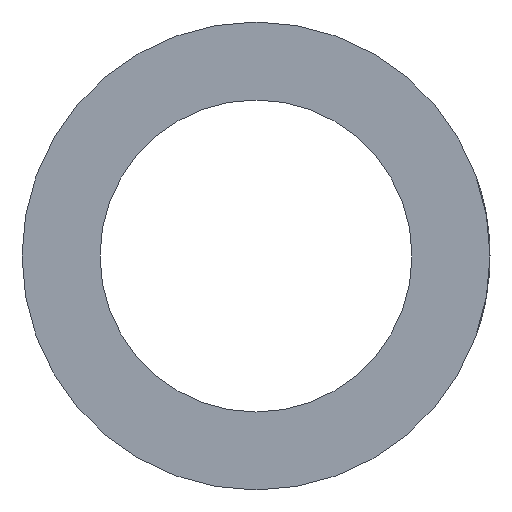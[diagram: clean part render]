
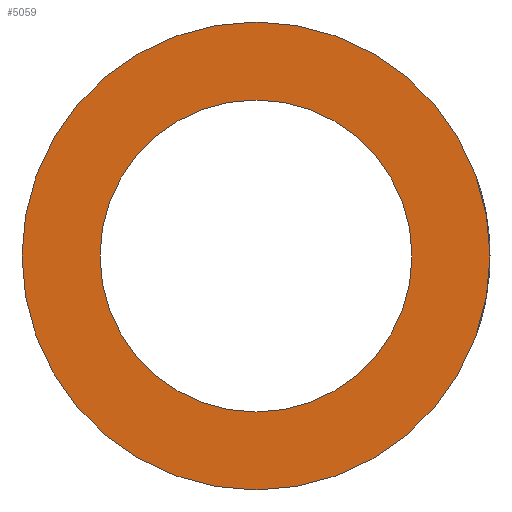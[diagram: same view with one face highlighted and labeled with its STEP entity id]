
A CAD part, left-side view. The second image highlights one B-rep face of the part: STEP entity #5059.
In plain terms, the highlighted planar face has unit normal (-1, 0, 0).
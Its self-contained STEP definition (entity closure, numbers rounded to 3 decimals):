
#114=PLANE('',#5454);
#348=CIRCLE('',#5453,45.);
#349=CIRCLE('',#5455,30.);
#1509=ORIENTED_EDGE('',*,*,#3031,.T.);
#1510=ORIENTED_EDGE('',*,*,#3030,.F.);
#3030=EDGE_CURVE('',#3791,#3791,#348,.T.);
#3031=EDGE_CURVE('',#3792,#3792,#349,.T.);
#3791=VERTEX_POINT('',#8125);
#3792=VERTEX_POINT('',#8128);
#4300=EDGE_LOOP('',(#1509));
#4301=EDGE_LOOP('',(#1510));
#4673=FACE_BOUND('',#4300,.T.);
#4674=FACE_BOUND('',#4301,.T.);
#5059=ADVANCED_FACE('',(#4673,#4674),#114,.F.);
#5453=AXIS2_PLACEMENT_3D('',#8124,#5979,#5980);
#5454=AXIS2_PLACEMENT_3D('',#8126,#5981,#5982);
#5455=AXIS2_PLACEMENT_3D('',#8127,#5983,#5984);
#5979=DIRECTION('',(1.,0.,0.));
#5980=DIRECTION('',(0.,0.,-1.));
#5981=DIRECTION('',(1.,0.,0.));
#5982=DIRECTION('',(0.,0.,-1.));
#5983=DIRECTION('',(1.,0.,0.));
#5984=DIRECTION('',(0.,0.,-1.));
#8124=CARTESIAN_POINT('',(-62.5,0.,0.));
#8125=CARTESIAN_POINT('',(-62.5,0.,-45.));
#8126=CARTESIAN_POINT('',(-62.5,0.,0.));
#8127=CARTESIAN_POINT('',(-62.5,0.,0.));
#8128=CARTESIAN_POINT('',(-62.5,0.,-30.));
